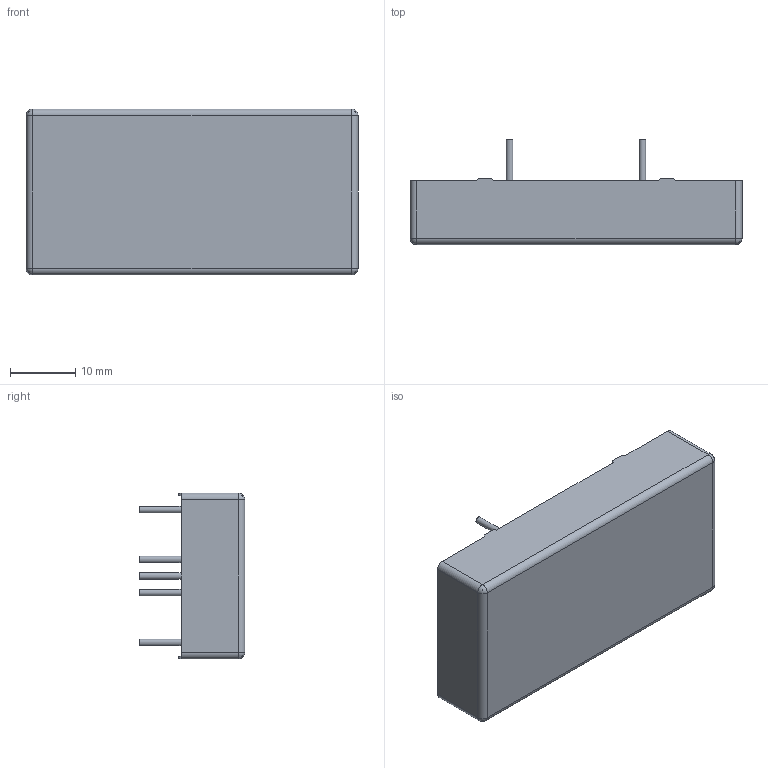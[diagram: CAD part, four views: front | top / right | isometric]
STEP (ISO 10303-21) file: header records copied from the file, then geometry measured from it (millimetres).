
FILE_DESCRIPTION(/* description */ ('Unknown'),/* implementation_level */ '2;1');
FILE_NAME(/* name */ 'JCH10(D)',/* time_stamp */ '2017-11-29T08:10:54+08:00',/* author */ ('Unknown'),/* organization */ ('Unknown'),/* preprocessor_version */ 'ST-DEVELOPER v16.7',/* originating_system */ 'DEX',/* authorisation */ $);
FILE_SCHEMA (('AUTOMOTIVE_DESIGN {1 0 10303 214 3 1 1}'));
Length unit declared in the file: millimetre
Products named in the file (1): JCH10(D)
Bounding box: 50.8 x 16.16 x 25.4 mm (x, y, z)
Volume: 12579.7 mm3; surface area: 4092.9 mm2
Topology: 1 solids, 1 shells, 56 faces, 127 edges, 78 vertices
Faces by surface type: plane 39, cylinder 13, sphere 4
Full cylindrical faces by diameter (mm): 1 x5
Entity records: 1534 total; most frequent: DIRECTION 270, CARTESIAN_POINT 253, ORIENTED_EDGE 236, EDGE_CURVE 118, AXIS2_PLACEMENT_3D 95, LINE 80, VECTOR 80, VERTEX_POINT 78
